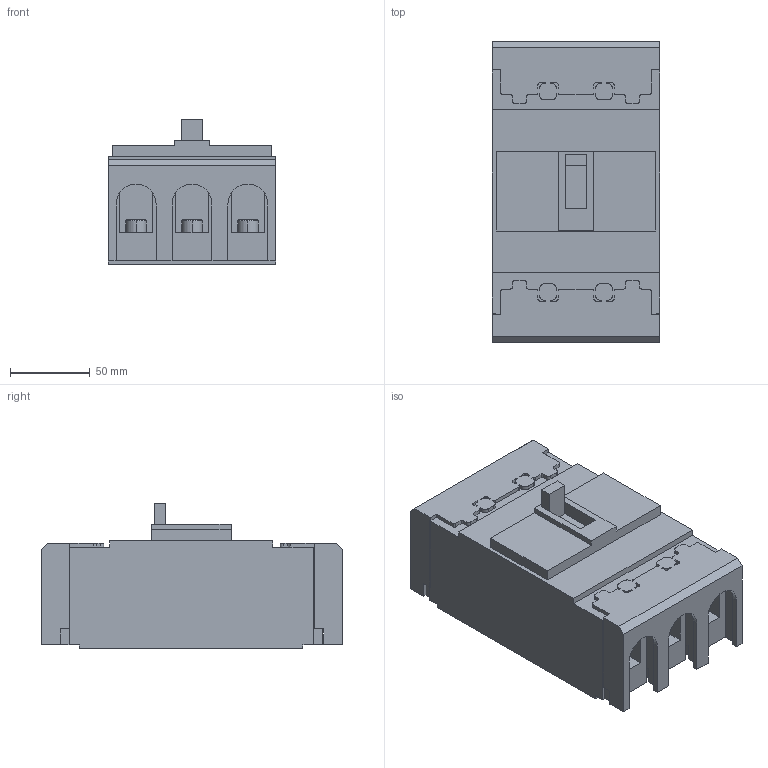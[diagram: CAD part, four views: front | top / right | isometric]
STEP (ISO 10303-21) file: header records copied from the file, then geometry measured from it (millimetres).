
FILE_DESCRIPTION( ( '' ), '1' );
FILE_NAME( 'E:/D&C電子外形図_3D/step/BW250EAGU-3P.stp', '2012-10-19T05:41:46', ( '' ), ( '' ), ' ', ' ', ' ' );
FILE_SCHEMA( ( 'automotive_design' ) );
Length unit declared in the file: millimetre
Products named in the file (10): 1; 2; 3; 4; 5; 6; 7; 8; 9; 10
Bounding box: 105 x 189 x 91 mm (x, y, z)
Volume: 1107158.1 mm3; surface area: 144530.5 mm2
Topology: 10 solids, 10 shells, 468 faces, 1260 edges, 836 vertices
Faces by surface type: plane 338, cylinder 118, cone 12
Entity records: 29079 total; most frequent: STYLED_ITEM 2574, PRESENTATION_STYLE_ASSIGNMENT 2574, CARTESIAN_POINT 2574, COLOUR_RGB 2574, ORIENTED_EDGE 2520, DIRECTION 2464, EDGE_CURVE 1260, CURVE_STYLE 1260
